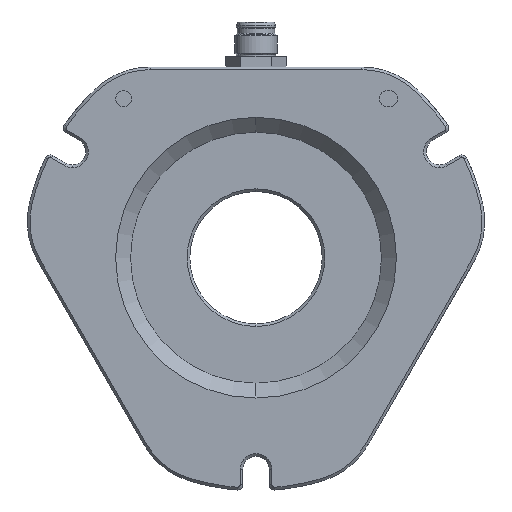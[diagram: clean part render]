
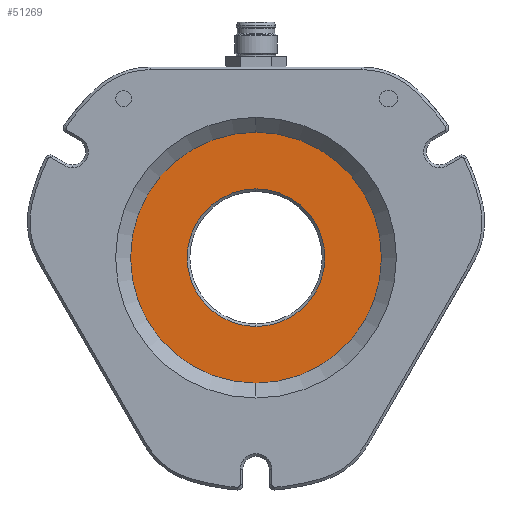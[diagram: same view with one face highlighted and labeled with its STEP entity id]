
A CAD part, front view. The second image highlights one B-rep face of the part: STEP entity #51269.
In plain terms, the highlighted planar face has unit normal (0, -1, 0).
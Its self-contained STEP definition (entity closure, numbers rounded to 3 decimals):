
#2490 = DIRECTION ( 'NONE',  ( 0., -1., 0. ) ) ;
#3858 = CIRCLE ( 'NONE', #25426, 23.7 ) ;
#6492 = DIRECTION ( 'NONE',  ( 0., 0., -1. ) ) ;
#10058 = CIRCLE ( 'NONE', #42852, 13. ) ;
#10100 = EDGE_CURVE ( 'NONE', #36927, #21625, #45867, .T. ) ;
#10631 = ORIENTED_EDGE ( 'NONE', *, *, #10100, .T. ) ;
#12435 = AXIS2_PLACEMENT_3D ( 'NONE', #48474, #54008, #44927 ) ;
#12718 = EDGE_CURVE ( 'NONE', #20032, #31170, #54556, .T. ) ;
#13087 = ORIENTED_EDGE ( 'NONE', *, *, #12718, .T. ) ;
#13380 = DIRECTION ( 'NONE',  ( 0., 0., -1. ) ) ;
#16855 = EDGE_LOOP ( 'NONE', ( #10631, #50443 ) ) ;
#17206 = CARTESIAN_POINT ( 'NONE',  ( 0., 2.8, 0. ) ) ;
#17966 = CARTESIAN_POINT ( 'NONE',  ( 0., 2.8, 0. ) ) ;
#20032 = VERTEX_POINT ( 'NONE', #29646 ) ;
#21625 = VERTEX_POINT ( 'NONE', #42231 ) ;
#24170 = AXIS2_PLACEMENT_3D ( 'NONE', #28679, #2490, #42089 ) ;
#25426 = AXIS2_PLACEMENT_3D ( 'NONE', #50801, #33256, #6492 ) ;
#28375 = FACE_BOUND ( 'NONE', #39442, .T. ) ;
#28679 = CARTESIAN_POINT ( 'NONE',  ( 0., 2.8, 0. ) ) ;
#29646 = CARTESIAN_POINT ( 'NONE',  ( 0., 2.8, 13. ) ) ;
#31170 = VERTEX_POINT ( 'NONE', #45551 ) ;
#33059 = PLANE ( 'NONE',  #24170 ) ;
#33256 = DIRECTION ( 'NONE',  ( 0., -1., 0. ) ) ;
#35894 = DIRECTION ( 'NONE',  ( 0., -1., 0. ) ) ;
#36927 = VERTEX_POINT ( 'NONE', #55103 ) ;
#37152 = FACE_OUTER_BOUND ( 'NONE', #16855, .T. ) ;
#39297 = EDGE_CURVE ( 'NONE', #31170, #20032, #10058, .T. ) ;
#39416 = DIRECTION ( 'NONE',  ( 0., 0., -1. ) ) ;
#39442 = EDGE_LOOP ( 'NONE', ( #40730, #13087 ) ) ;
#40730 = ORIENTED_EDGE ( 'NONE', *, *, #39297, .T. ) ;
#42089 = DIRECTION ( 'NONE',  ( 0., 0., -1. ) ) ;
#42231 = CARTESIAN_POINT ( 'NONE',  ( 0., 2.8, 23.7 ) ) ;
#42852 = AXIS2_PLACEMENT_3D ( 'NONE', #17206, #45036, #13380 ) ;
#44927 = DIRECTION ( 'NONE',  ( 0., 0., -1. ) ) ;
#45036 = DIRECTION ( 'NONE',  ( 0., 1., 0. ) ) ;
#45551 = CARTESIAN_POINT ( 'NONE',  ( 0., 2.8, -13. ) ) ;
#45867 = CIRCLE ( 'NONE', #57067, 23.7 ) ;
#48474 = CARTESIAN_POINT ( 'NONE',  ( 0., 2.8, 0. ) ) ;
#50443 = ORIENTED_EDGE ( 'NONE', *, *, #55727, .T. ) ;
#50801 = CARTESIAN_POINT ( 'NONE',  ( 0., 2.8, 0. ) ) ;
#51269 = ADVANCED_FACE ( 'NONE', ( #28375, #37152 ), #33059, .T. ) ;
#54008 = DIRECTION ( 'NONE',  ( 0., 1., 0. ) ) ;
#54556 = CIRCLE ( 'NONE', #12435, 13. ) ;
#55103 = CARTESIAN_POINT ( 'NONE',  ( 0., 2.8, -23.7 ) ) ;
#55727 = EDGE_CURVE ( 'NONE', #21625, #36927, #3858, .T. ) ;
#57067 = AXIS2_PLACEMENT_3D ( 'NONE', #17966, #35894, #39416 ) ;
